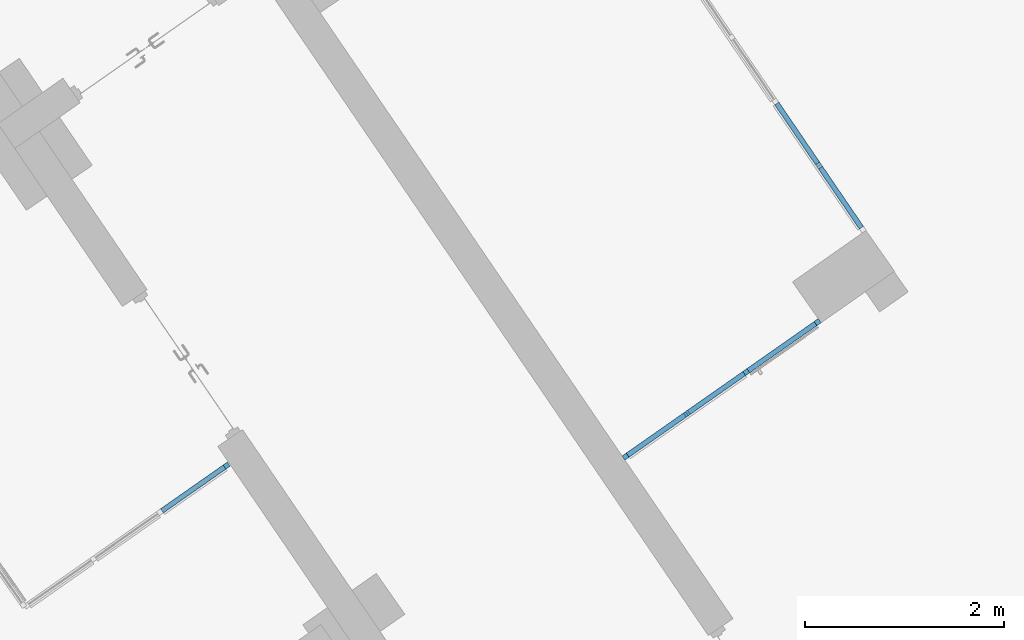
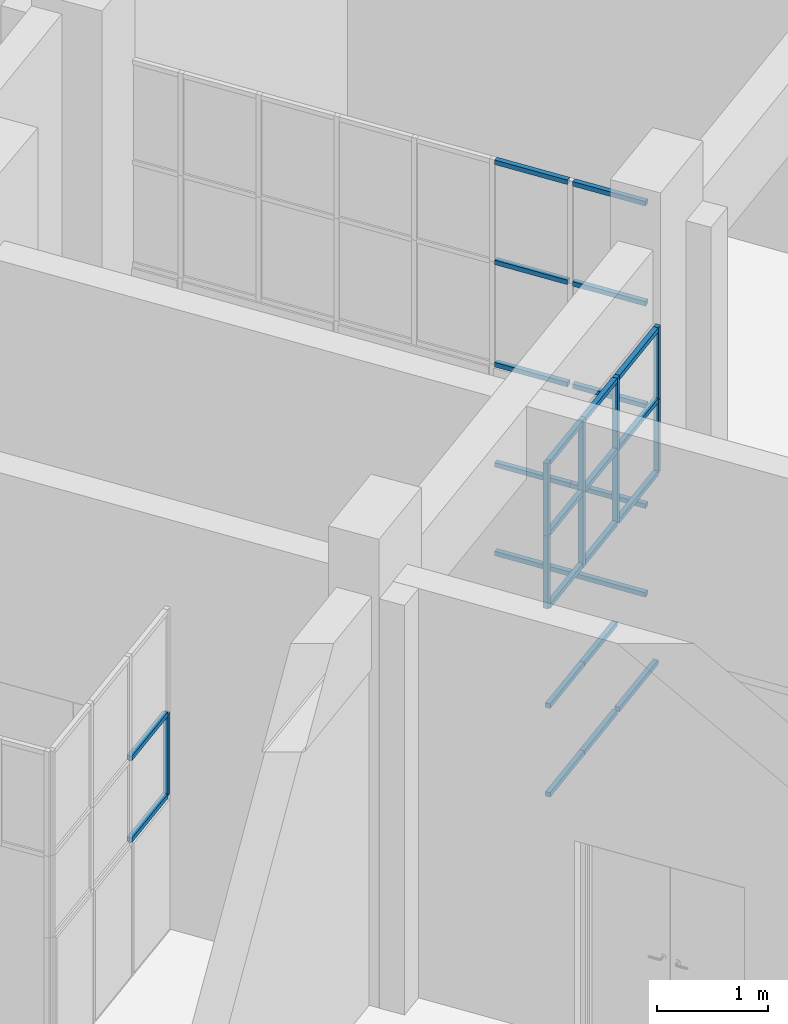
# One storey, part 40 of 157: 35 members, 3 elements without a shape of their own.
"""IFC2X3 building model written with IfcOpenShell, lengths in millimetres."""

from ifc_helpers import new_model, entity, si_unit, converted_unit, derived_unit, direction, frame, origin, origin_2d_with_axis, place, context, subcontext, project, spatial, rectangle, extrude, source, transform, mapped, material, type_object, type_shapes, element, aggregate, save


model = new_model("IFC2X3")

# Units and contexts
model_context = context("Model", 3, precision=0.01, world=origin(), true_north=direction((6.123031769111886e-17, 1.0)))
body_context = subcontext(model_context, "Body", "Model", "MODEL_VIEW")
ifc_project = project(units=[si_unit("LENGTHUNIT", "METRE", prefix="MILLI"), si_unit("AREAUNIT", "SQUARE_METRE"), si_unit("VOLUMEUNIT", "CUBIC_METRE"), converted_unit("PLANEANGLEUNIT", "DEGREE", entity("IfcRatioMeasure", 0.017453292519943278), si_unit("PLANEANGLEUNIT", "RADIAN"), dimensions=[0, 0, 0, 0, 0, 0, 0]), si_unit("MASSUNIT", "GRAM", prefix="KILO"), derived_unit("MASSDENSITYUNIT", [(si_unit("MASSUNIT", "GRAM", prefix="KILO"), 1), (si_unit("LENGTHUNIT", "METRE"), -3)]), derived_unit("MOMENTOFINERTIAUNIT", [(si_unit("LENGTHUNIT", "METRE"), 4)]), si_unit("TIMEUNIT", "SECOND"), si_unit("FREQUENCYUNIT", "HERTZ"), si_unit("THERMODYNAMICTEMPERATUREUNIT", "DEGREE_CELSIUS"), derived_unit("THERMALTRANSMITTANCEUNIT", [(si_unit("MASSUNIT", "GRAM", prefix="KILO"), 1), (si_unit("THERMODYNAMICTEMPERATUREUNIT", "KELVIN"), -1), (si_unit("TIMEUNIT", "SECOND"), -3)]), derived_unit("THERMALCONDUCTANCEUNIT", [(si_unit("MASSUNIT", "GRAM", prefix="KILO"), 1), (si_unit("LENGTHUNIT", "METRE"), 1), (si_unit("THERMODYNAMICTEMPERATUREUNIT", "KELVIN"), -1), (si_unit("TIMEUNIT", "SECOND"), -3)]), derived_unit("VOLUMETRICFLOWRATEUNIT", [(si_unit("LENGTHUNIT", "METRE"), 3), (si_unit("TIMEUNIT", "SECOND"), -1)]), derived_unit("MASSFLOWRATEUNIT", [(si_unit("MASSUNIT", "GRAM", prefix="KILO"), 1), (si_unit("TIMEUNIT", "SECOND"), -1)]), derived_unit("ROTATIONALFREQUENCYUNIT", [(si_unit("TIMEUNIT", "SECOND"), -1)]), si_unit("ELECTRICCURRENTUNIT", "AMPERE"), si_unit("ELECTRICVOLTAGEUNIT", "VOLT"), si_unit("POWERUNIT", "WATT"), converted_unit("FORCEUNIT", "KIP", entity("IfcRatioMeasure", 2.088543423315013e-05), si_unit("FORCEUNIT", "NEWTON"), dimensions=[1, 1, -2, 0, 0, 0, 0]), si_unit("ILLUMINANCEUNIT", "LUX"), si_unit("LUMINOUSFLUXUNIT", "LUMEN"), si_unit("LUMINOUSINTENSITYUNIT", "CANDELA"), derived_unit("USERDEFINED", [(si_unit("MASSUNIT", "GRAM", prefix="KILO"), -1), (si_unit("LENGTHUNIT", "METRE"), -2), (si_unit("TIMEUNIT", "SECOND"), 3), (si_unit("LUMINOUSFLUXUNIT", "LUMEN"), 1)]), derived_unit("USERDEFINED", [(si_unit("MASSUNIT", "GRAM", prefix="KILO"), 1), (si_unit("LENGTHUNIT", "METRE"), 3), (si_unit("TIMEUNIT", "SECOND"), -3), (si_unit("ELECTRICCURRENTUNIT", "AMPERE"), -2)]), derived_unit("USERDEFINED", [(si_unit("LENGTHUNIT", "METRE"), 2), (si_unit("TIMEUNIT", "SECOND"), -2)]), derived_unit("SOUNDPOWERUNIT", [(si_unit("MASSUNIT", "GRAM", prefix="KILO"), 1), (si_unit("LENGTHUNIT", "METRE"), 2), (si_unit("TIMEUNIT", "SECOND"), -3)]), derived_unit("SOUNDPRESSUREUNIT", [(si_unit("MASSUNIT", "GRAM", prefix="KILO"), 1), (si_unit("LENGTHUNIT", "METRE"), -1), (si_unit("TIMEUNIT", "SECOND"), -2)]), derived_unit("LINEARVELOCITYUNIT", [(si_unit("LENGTHUNIT", "METRE"), 1), (si_unit("TIMEUNIT", "SECOND"), -1)]), si_unit("PRESSUREUNIT", "PASCAL"), derived_unit("USERDEFINED", [(si_unit("LENGTHUNIT", "METRE"), -2), (si_unit("MASSUNIT", "GRAM", prefix="KILO"), 1), (si_unit("TIMEUNIT", "SECOND"), -2)]), derived_unit("LINEARFORCEUNIT", [(si_unit("MASSUNIT", "GRAM", prefix="KILO"), 1), (si_unit("LENGTHUNIT", "METRE"), 1), (si_unit("TIMEUNIT", "SECOND"), -2), (si_unit("LENGTHUNIT", "METRE"), -1)]), derived_unit("PLANARFORCEUNIT", [(si_unit("MASSUNIT", "GRAM", prefix="KILO"), 1), (si_unit("LENGTHUNIT", "METRE"), 1), (si_unit("TIMEUNIT", "SECOND"), -2), (si_unit("LENGTHUNIT", "METRE"), -2)]), derived_unit("SPECIFICHEATCAPACITYUNIT", [(si_unit("LENGTHUNIT", "METRE"), 2), (si_unit("TIMEUNIT", "SECOND"), -2), (si_unit("THERMODYNAMICTEMPERATUREUNIT", "KELVIN"), -1)]), derived_unit("VAPORPERMEABILITYUNIT", [(si_unit("TIMEUNIT", "SECOND"), 1), (si_unit("LENGTHUNIT", "METRE"), -1)]), derived_unit("DYNAMICVISCOSITYUNIT", [(si_unit("MASSUNIT", "GRAM", prefix="KILO"), 1), (si_unit("LENGTHUNIT", "METRE"), -1), (si_unit("TIMEUNIT", "SECOND"), -1)]), derived_unit("THERMALEXPANSIONCOEFFICIENTUNIT", [(si_unit("THERMODYNAMICTEMPERATUREUNIT", "KELVIN"), -1)])], contexts=[model_context])

# Site, building, storey
site_placement = place(None, frame((0.0, 0.0, 0.0), z_axis=(0.0, 0.0, 1.0), x_axis=(0.8191520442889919, 0.5735764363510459, 0.0)))
site = spatial("IfcSite", under=ifc_project, at=site_placement, Name="Default", CompositionType="ELEMENT")
building_placement = place(site_placement, origin())
building = spatial("IfcBuilding", under=site, at=building_placement, CompositionType="ELEMENT")
storey_placement = place(building_placement, origin())
storey = spatial("IfcBuildingStorey", under=building, at=storey_placement, Name="1.EG +0.00", CompositionType="ELEMENT", Elevation=-4.331468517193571e-12)

# Curtain wall, members
curtain_wall_type = type_object("IfcCurtainWallType", Name="Curtain Wall:Curtain_Wall_CJC_Int5", PredefinedType="NOTDEFINED")
curtain_wall_1_placement = place(storey_placement, origin())
curtain_wall_1 = element("IfcCurtainWall", 1, at=curtain_wall_1_placement, inside=storey, type_object=curtain_wall_type, Name="Curtain Wall:Curtain_Wall_CJC_Int5", ObjectType="Curtain Wall:Curtain_Wall_CJC_Int5")
ifc_material = material(Name="Aluminium")
member_type_1 = type_object("IfcMemberType", Name="Rectangular Mullion:5x5", PredefinedType="MULLION", material=ifc_material)
shared_shape_1 = source(origin(), body_context, "Body", "SweptSolid", [
    extrude(rectangle(XDim=49.99999999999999, YDim=50.0, at=origin_2d_with_axis()), frame((-25.0, 0.0, -701.0338390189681), z_axis=(0.0, 0.0, 1.0), x_axis=(0.0, -1.0, 0.0)), (0.0, 0.0, 1.0), 701.0338390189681),
])
type_shapes(member_type_1, [shared_shape_1])
member_1_placement = place(curtain_wall_1_placement, frame((-213186.90391156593, 157771.3589143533, 3700.0), z_axis=(-1.0, 0.0, 0.0), x_axis=(0.0, 0.0, 1.0)))
member_1 = element("IfcMember", 2, at=member_1_placement, type_object=member_type_1, material=ifc_material, Name="Rectangular Mullion:5x5", ObjectType="Rectangular Mullion:5x5", context=body_context, shape_type="MappedRepresentation", body=[
    mapped(shared_shape_1, transform((0.0, 0.0, 0.0), scale=1.0)),
])
member_type_2 = type_object("IfcMemberType", Name="Rectangular Mullion:5x5", PredefinedType="MULLION", material=ifc_material)
shared_shape_2 = source(origin(), body_context, "Body", "SweptSolid", [
    extrude(rectangle(XDim=50.000000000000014, YDim=50.0, at=origin_2d_with_axis()), frame((-25.0, 0.0, -677.0676777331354), z_axis=(0.0, 0.0, 1.0), x_axis=(0.0, -1.0, 0.0)), (0.0, 0.0, 1.0), 677.0676777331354),
])
type_shapes(member_type_2, [shared_shape_2])
member_2_placement = place(curtain_wall_1_placement, frame((-212435.8680839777, 157771.3589143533, 3700.0), z_axis=(-1.0, 0.0, 0.0), x_axis=(0.0, 0.0, 1.0)))
member_2 = element("IfcMember", 3, at=member_2_placement, type_object=member_type_2, material=ifc_material, Name="Rectangular Mullion:5x5", ObjectType="Rectangular Mullion:5x5", context=body_context, shape_type="MappedRepresentation", body=[
    mapped(shared_shape_2, transform((0.0, 0.0, 0.0), scale=1.0)),
])
member_type_3 = type_object("IfcMemberType", Name="Rectangular Mullion:5x5", PredefinedType="MULLION", material=ifc_material)
shared_shape_3 = source(origin(), body_context, "Body", "SweptSolid", [
    extrude(rectangle(XDim=50.0, YDim=50.0, at=origin_2d_with_axis()), frame((-25.0, 0.0, -825.0), z_axis=(0.0, 0.0, 1.0), x_axis=(0.0, -1.0, 0.0)), (0.0, 0.0, 1.0), 825.0),
])
type_shapes(member_type_3, [shared_shape_3])
member_3_placement = place(curtain_wall_1_placement, frame((-210883.79642910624, 157771.3589143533, 0.0), z_axis=(1.0, 0.0, 0.0), x_axis=(0.0, 0.0, -1.0)))
member_3 = element("IfcMember", 4, at=member_3_placement, type_object=member_type_3, material=ifc_material, Name="Rectangular Mullion:5x5", ObjectType="Rectangular Mullion:5x5", context=body_context, shape_type="MappedRepresentation", body=[
    mapped(shared_shape_3, transform((0.0, 0.0, 0.0), scale=1.0)),
])
member_type_4 = type_object("IfcMemberType", Name="Rectangular Mullion:5x5", PredefinedType="MULLION", material=ifc_material)
shared_shape_4 = source(origin(), body_context, "Body", "SweptSolid", [
    extrude(rectangle(XDim=50.0, YDim=50.0, at=origin_2d_with_axis()), frame((0.0, 0.0, -701.0338390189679), z_axis=(0.0, 0.0, 1.0), x_axis=(0.0, -1.0, 0.0)), (0.0, 0.0, 1.0), 701.0338390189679),
])
type_shapes(member_type_4, [shared_shape_4])
member_4_placement = place(curtain_wall_1_placement, frame((-213186.90391156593, 157771.3589143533, 2100.0), z_axis=(-1.0, 0.0, 0.0), x_axis=(0.0, 0.0, 1.0)))
member_4 = element("IfcMember", 5, at=member_4_placement, type_object=member_type_4, material=ifc_material, Name="Rectangular Mullion:5x5", ObjectType="Rectangular Mullion:5x5", context=body_context, shape_type="MappedRepresentation", body=[
    mapped(shared_shape_4, transform((0.0, 0.0, 0.0), scale=1.0)),
])
member_5_placement = place(curtain_wall_1_placement, frame((-213186.90391156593, 157771.3589143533, 2900.0), z_axis=(-1.0, 0.0, 0.0), x_axis=(0.0, 0.0, 1.0)))
member_5 = element("IfcMember", 6, at=member_5_placement, type_object=member_type_4, material=ifc_material, Name="Rectangular Mullion:5x5", ObjectType="Rectangular Mullion:5x5", context=body_context, shape_type="MappedRepresentation", body=[
    mapped(shared_shape_4, transform((0.0, 0.0, 0.0), scale=1.0)),
])
member_type_5 = type_object("IfcMemberType", Name="Rectangular Mullion:5x5", PredefinedType="MULLION", material=ifc_material)
shared_shape_5 = source(origin(), body_context, "Body", "SweptSolid", [
    extrude(rectangle(XDim=50.0, YDim=50.0, at=origin_2d_with_axis()), frame((0.0, 0.0, -677.0676777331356), z_axis=(0.0, 0.0, 1.0), x_axis=(0.0, -1.0, 0.0)), (0.0, 0.0, 1.0), 677.067677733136),
])
type_shapes(member_type_5, [shared_shape_5])
member_6_placement = place(curtain_wall_1_placement, frame((-212435.8680839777, 157771.3589143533, 2100.0), z_axis=(-1.0, 0.0, 0.0), x_axis=(0.0, 0.0, 1.0)))
member_6 = element("IfcMember", 7, at=member_6_placement, type_object=member_type_5, material=ifc_material, Name="Rectangular Mullion:5x5", ObjectType="Rectangular Mullion:5x5", context=body_context, shape_type="MappedRepresentation", body=[
    mapped(shared_shape_5, transform((0.0, 0.0, 0.0), scale=1.0)),
])
member_7_placement = place(curtain_wall_1_placement, frame((-212435.8680839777, 157771.3589143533, 2900.0), z_axis=(-1.0, 0.0, 0.0), x_axis=(0.0, 0.0, 1.0)))
member_7 = element("IfcMember", 8, at=member_7_placement, type_object=member_type_5, material=ifc_material, Name="Rectangular Mullion:5x5", ObjectType="Rectangular Mullion:5x5", context=body_context, shape_type="MappedRepresentation", body=[
    mapped(shared_shape_5, transform((0.0, 0.0, 0.0), scale=1.0)),
])
member_type_6 = type_object("IfcMemberType", Name="Rectangular Mullion:5x5", PredefinedType="MULLION", material=ifc_material)
shared_shape_6 = source(origin(), body_context, "Body", "SweptSolid", [
    extrude(rectangle(XDim=50.0, YDim=50.0, at=origin_2d_with_axis()), frame((0.0, 0.0, -825.0), z_axis=(0.0, 0.0, 1.0), x_axis=(0.0, -1.0, 0.0)), (0.0, 0.0, 1.0), 825.0),
])
type_shapes(member_type_6, [shared_shape_6])
member_8_placement = place(curtain_wall_1_placement, frame((-211708.79642910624, 157771.3589143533, 2100.0), z_axis=(-1.0, 0.0, 0.0), x_axis=(0.0, 0.0, 1.0)))
member_8 = element("IfcMember", 9, at=member_8_placement, type_object=member_type_6, material=ifc_material, Name="Rectangular Mullion:5x5", ObjectType="Rectangular Mullion:5x5", context=body_context, shape_type="MappedRepresentation", body=[
    mapped(shared_shape_6, transform((0.0, 0.0, 0.0), scale=1.0)),
])
member_9_placement = place(curtain_wall_1_placement, frame((-211708.79642910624, 157771.3589143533, 2900.0), z_axis=(-1.0, 0.0, 0.0), x_axis=(0.0, 0.0, 1.0)))
member_9 = element("IfcMember", 10, at=member_9_placement, type_object=member_type_6, material=ifc_material, Name="Rectangular Mullion:5x5", ObjectType="Rectangular Mullion:5x5", context=body_context, shape_type="MappedRepresentation", body=[
    mapped(shared_shape_6, transform((0.0, 0.0, 0.0), scale=1.0)),
])
member_type_7 = type_object("IfcMemberType", Name="Rectangular Mullion:5x5", PredefinedType="MULLION", material=ifc_material)
shared_shape_7 = source(origin(), body_context, "Body", "SweptSolid", [
    extrude(rectangle(XDim=50.0, YDim=50.0, at=origin_2d_with_axis()), frame((-25.0, 0.0, -825.0), z_axis=(0.0, 0.0, 1.0), x_axis=(0.0, -1.0, 0.0)), (0.0, 0.0, 1.0), 824.9999999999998),
])
type_shapes(member_type_7, [shared_shape_7])
member_10_placement = place(curtain_wall_1_placement, frame((-211708.79642910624, 157771.3589143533, 3700.0), z_axis=(-1.0, 0.0, 0.0), x_axis=(0.0, 0.0, 1.0)))
member_10 = element("IfcMember", 11, at=member_10_placement, type_object=member_type_7, material=ifc_material, Name="Rectangular Mullion:5x5", ObjectType="Rectangular Mullion:5x5", context=body_context, shape_type="MappedRepresentation", body=[
    mapped(shared_shape_7, transform((0.0, 0.0, 0.0), scale=1.0)),
])

curtain_wall_2_placement = place(storey_placement, origin())
curtain_wall_2 = element("IfcCurtainWall", 12, at=curtain_wall_2_placement, inside=storey, type_object=curtain_wall_type, Name="Curtain Wall:Curtain_Wall_CJC_Int5", ObjectType="Curtain Wall:Curtain_Wall_CJC_Int5")
member_type_8 = type_object("IfcMemberType", Name="Rectangular Mullion:5x5", PredefinedType="MULLION", material=ifc_material)
shared_shape_8 = source(origin(), body_context, "Body", "SweptSolid", [
    extrude(rectangle(XDim=50.0, YDim=50.0, at=origin_2d_with_axis()), frame((-25.0, 0.0, -728.6339668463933), z_axis=(0.0, 0.0, 1.0), x_axis=(0.0, -1.0, 0.0)), (0.0, 0.0, 1.0), 728.6339668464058),
])
type_shapes(member_type_8, [shared_shape_8])
member_11_placement = place(curtain_wall_2_placement, frame((-209945.72636363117, 159024.93091162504, 4350.0), z_axis=(0.012616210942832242, 0.9999204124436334, 0.0), x_axis=(0.0, 0.0, 1.0)))
member_11 = element("IfcMember", 13, at=member_11_placement, type_object=member_type_8, material=ifc_material, Name="Rectangular Mullion:5x5", ObjectType="Rectangular Mullion:5x5", context=body_context, shape_type="MappedRepresentation", body=[
    mapped(shared_shape_8, transform((0.0, 0.0, 0.0), scale=1.0)),
])
member_12_placement = place(curtain_wall_2_placement, frame((-209935.9029532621, 159803.502908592, 4350.0), z_axis=(0.012616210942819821, 0.9999204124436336, 0.0), x_axis=(0.0, 0.0, 1.0)))
member_12 = element("IfcMember", 14, at=member_12_placement, type_object=member_type_8, material=ifc_material, Name="Rectangular Mullion:5x5", ObjectType="Rectangular Mullion:5x5", context=body_context, shape_type="MappedRepresentation", body=[
    mapped(shared_shape_8, transform((0.0, 0.0, 0.0), scale=1.0)),
])
member_type_9 = type_object("IfcMemberType", Name="Rectangular Mullion:5x5", PredefinedType="MULLION", material=ifc_material)
shared_shape_9 = source(origin(), body_context, "Body", "SweptSolid", [
    extrude(rectangle(XDim=50.0, YDim=50.0, at=origin_2d_with_axis()), frame((-25.0, 0.0, -753.6339668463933), z_axis=(0.0, 0.0, 1.0), x_axis=(0.0, -1.0, 0.0)), (0.0, 0.0, 1.0), 753.6339668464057),
])
type_shapes(member_type_9, [shared_shape_9])
member_13_placement = place(curtain_wall_2_placement, frame((-209954.918963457, 158296.35493497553, 0.0), z_axis=(-0.012616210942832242, -0.9999204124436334, 0.0), x_axis=(0.0, 0.0, -1.0)))
member_13 = element("IfcMember", 15, at=member_13_placement, type_object=member_type_9, material=ifc_material, Name="Rectangular Mullion:5x5", ObjectType="Rectangular Mullion:5x5", context=body_context, shape_type="MappedRepresentation", body=[
    mapped(shared_shape_9, transform((0.0, 0.0, 0.0), scale=1.0)),
])
member_type_10 = type_object("IfcMemberType", Name="Rectangular Mullion:5x5", PredefinedType="MULLION", material=ifc_material)
shared_shape_10 = source(origin(), body_context, "Body", "SweptSolid", [
    extrude(rectangle(XDim=50.0, YDim=50.0, at=origin_2d_with_axis()), frame((-25.0, 0.0, -753.6339665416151), z_axis=(0.0, 0.0, 1.0), x_axis=(0.0, -1.0, 0.0)), (0.0, 0.0, 1.0), 753.6339665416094),
])
type_shapes(member_type_10, [shared_shape_10])
member_14_placement = place(curtain_wall_2_placement, frame((-209945.41095835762, 159049.92892193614, 0.0), z_axis=(-0.012616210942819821, -0.9999204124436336, 0.0), x_axis=(0.0, 0.0, -1.0)))
member_14 = element("IfcMember", 16, at=member_14_placement, type_object=member_type_10, material=ifc_material, Name="Rectangular Mullion:5x5", ObjectType="Rectangular Mullion:5x5", context=body_context, shape_type="MappedRepresentation", body=[
    mapped(shared_shape_10, transform((0.0, 0.0, 0.0), scale=1.0)),
])
member_type_11 = type_object("IfcMemberType", Name="Rectangular Mullion:5x5", PredefinedType="MULLION", material=ifc_material)
shared_shape_11 = source(origin(), body_context, "Body", "SweptSolid", [
    extrude(rectangle(XDim=50.0, YDim=50.0, at=origin_2d_with_axis()), frame((0.0, 0.0, -753.6339668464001), z_axis=(0.0, 0.0, 1.0), x_axis=(0.0, -1.0, 0.0)), (0.0, 0.0, 1.0), 753.6339668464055),
])
type_shapes(member_type_11, [shared_shape_11])
member_15_placement = place(curtain_wall_2_placement, frame((-209945.41095835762, 159049.9289219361, 1000.0), z_axis=(0.012616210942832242, 0.9999204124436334, 0.0), x_axis=(0.0, 0.0, 1.0)))
member_15 = element("IfcMember", 17, at=member_15_placement, type_object=member_type_11, material=ifc_material, Name="Rectangular Mullion:5x5", ObjectType="Rectangular Mullion:5x5", context=body_context, shape_type="MappedRepresentation", body=[
    mapped(shared_shape_11, transform((0.0, 0.0, 0.0), scale=1.0)),
])
member_type_12 = type_object("IfcMemberType", Name="Rectangular Mullion:5x5", PredefinedType="MULLION", material=ifc_material)
shared_shape_12 = source(origin(), body_context, "Body", "SweptSolid", [
    extrude(rectangle(XDim=50.0, YDim=50.0, at=origin_2d_with_axis()), frame((0.0, 0.0, -753.6339665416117), z_axis=(0.0, 0.0, 1.0), x_axis=(0.0, -1.0, 0.0)), (0.0, 0.0, 1.0), 753.6339665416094),
])
type_shapes(member_type_12, [shared_shape_12])
member_16_placement = place(curtain_wall_2_placement, frame((-209935.9029532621, 159803.502908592, 1000.0), z_axis=(0.012616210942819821, 0.9999204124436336, 0.0), x_axis=(0.0, 0.0, 1.0)))
member_16 = element("IfcMember", 18, at=member_16_placement, type_object=member_type_12, material=ifc_material, Name="Rectangular Mullion:5x5", ObjectType="Rectangular Mullion:5x5", context=body_context, shape_type="MappedRepresentation", body=[
    mapped(shared_shape_12, transform((0.0, 0.0, 0.0), scale=1.0)),
])
member_type_13 = type_object("IfcMemberType", Name="Rectangular Mullion:5x5", PredefinedType="MULLION", material=ifc_material)
shared_shape_13 = source(origin(), body_context, "Body", "SweptSolid", [
    extrude(rectangle(XDim=50.0, YDim=50.0, at=origin_2d_with_axis()), frame((0.0, 0.0, -728.6339668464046), z_axis=(0.0, 0.0, 1.0), x_axis=(0.0, -1.0, 0.0)), (0.0, 0.0, 1.0), 728.6339668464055),
])
type_shapes(member_type_13, [shared_shape_13])
member_17_placement = place(curtain_wall_2_placement, frame((-209945.72636363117, 159024.93091162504, 2100.0), z_axis=(0.012616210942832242, 0.9999204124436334, 0.0), x_axis=(0.0, 0.0, 1.0)))
member_17 = element("IfcMember", 19, at=member_17_placement, type_object=member_type_13, material=ifc_material, Name="Rectangular Mullion:5x5", ObjectType="Rectangular Mullion:5x5", context=body_context, shape_type="MappedRepresentation", body=[
    mapped(shared_shape_13, transform((0.0, 0.0, 0.0), scale=1.0)),
])
member_18_placement = place(curtain_wall_2_placement, frame((-209935.9029532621, 159803.502908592, 2100.0), z_axis=(0.012616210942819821, 0.9999204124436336, 0.0), x_axis=(0.0, 0.0, 1.0)))
member_18 = element("IfcMember", 20, at=member_18_placement, type_object=member_type_13, material=ifc_material, Name="Rectangular Mullion:5x5", ObjectType="Rectangular Mullion:5x5", context=body_context, shape_type="MappedRepresentation", body=[
    mapped(shared_shape_13, transform((0.0, 0.0, 0.0), scale=1.0)),
])
member_19_placement = place(curtain_wall_2_placement, frame((-209945.72636363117, 159024.93091162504, 3225.0), z_axis=(0.012616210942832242, 0.9999204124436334, 0.0), x_axis=(0.0, 0.0, 1.0)))
member_19 = element("IfcMember", 21, at=member_19_placement, type_object=member_type_13, material=ifc_material, Name="Rectangular Mullion:5x5", ObjectType="Rectangular Mullion:5x5", context=body_context, shape_type="MappedRepresentation", body=[
    mapped(shared_shape_13, transform((0.0, 0.0, 0.0), scale=1.0)),
])
member_20_placement = place(curtain_wall_2_placement, frame((-209935.9029532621, 159803.502908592, 3225.0), z_axis=(0.012616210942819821, 0.9999204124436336, 0.0), x_axis=(0.0, 0.0, 1.0)))
member_20 = element("IfcMember", 22, at=member_20_placement, type_object=member_type_13, material=ifc_material, Name="Rectangular Mullion:5x5", ObjectType="Rectangular Mullion:5x5", context=body_context, shape_type="MappedRepresentation", body=[
    mapped(shared_shape_13, transform((0.0, 0.0, 0.0), scale=1.0)),
])
aggregate(curtain_wall_2, [member_13, member_11, member_12, member_14, member_15, member_16, member_17, member_18, member_19, member_20])

# Member
member_type_14 = type_object("IfcMemberType", Name="Rectangular Mullion:5x5", PredefinedType="MULLION", material=ifc_material)
shared_shape_14 = source(origin(), body_context, "Body", "SweptSolid", [
    extrude(rectangle(XDim=50.0, YDim=50.0, at=origin_2d_with_axis()), frame((-25.0, 0.0, -800.0), z_axis=(0.0, 0.0, 1.0), x_axis=(0.0, -1.0, 0.0)), (0.0, 0.0, 1.0), 800.0),
])
type_shapes(member_type_14, [shared_shape_14])
member_21_placement = place(curtain_wall_1_placement, frame((-210833.79642910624, 157771.3589143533, 3700.0)))
member_21 = element("IfcMember", 23, at=member_21_placement, type_object=member_type_14, material=ifc_material, Name="Rectangular Mullion:5x5", ObjectType="Rectangular Mullion:5x5", context=body_context, shape_type="MappedRepresentation", body=[
    mapped(shared_shape_14, transform((0.0, 0.0, 0.0), scale=1.0)),
])

member_type_15 = type_object("IfcMemberType", Name="Rectangular Mullion:5x5", PredefinedType="MULLION", material=ifc_material)
shared_shape_15 = source(origin(), body_context, "Body", "SweptSolid", [
    extrude(rectangle(XDim=50.000000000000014, YDim=50.0, at=origin_2d_with_axis()), frame((-25.0, 0.0, -702.0716548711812), z_axis=(0.0, 0.0, 1.0), x_axis=(0.0, -1.0, 0.0)), (0.0, 0.0, 1.0), 702.0716548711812),
])
type_shapes(member_type_15, [shared_shape_15])
member_22_placement = place(curtain_wall_1_placement, frame((-211758.79642910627, 157771.3589143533, 0.0), z_axis=(1.0, 0.0, 0.0), x_axis=(0.0, 0.0, -1.0)))
member_22 = element("IfcMember", 24, at=member_22_placement, type_object=member_type_15, material=ifc_material, Name="Rectangular Mullion:5x5", ObjectType="Rectangular Mullion:5x5", context=body_context, shape_type="MappedRepresentation", body=[
    mapped(shared_shape_15, transform((0.0, 0.0, 0.0), scale=1.0)),
])

member_type_16 = type_object("IfcMemberType", Name="Rectangular Mullion:5x5", PredefinedType="MULLION", material=ifc_material)
shared_shape_16 = source(origin(), body_context, "Body", "SweptSolid", [
    extrude(rectangle(XDim=50.000000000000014, YDim=50.0, at=origin_2d_with_axis()), frame((-25.0, 0.0, -726.0358275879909), z_axis=(0.0, 0.0, 1.0), x_axis=(0.0, -1.0, 0.0)), (0.0, 0.0, 1.0), 726.0358275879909),
])
type_shapes(member_type_16, [shared_shape_16])
member_23_placement = place(curtain_wall_1_placement, frame((-212460.8680839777, 157771.3589143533, 0.0), z_axis=(1.0, 0.0, 0.0), x_axis=(0.0, 0.0, -1.0)))
member_23 = element("IfcMember", 25, at=member_23_placement, type_object=member_type_16, material=ifc_material, Name="Rectangular Mullion:5x5", ObjectType="Rectangular Mullion:5x5", context=body_context, shape_type="MappedRepresentation", body=[
    mapped(shared_shape_16, transform((0.0, 0.0, 0.0), scale=1.0)),
])

member_type_17 = type_object("IfcMemberType", Name="Rectangular Mullion:5x5", PredefinedType="MULLION", material=ifc_material)
shared_shape_17 = source(origin(), body_context, "Body", "SweptSolid", [
    extrude(rectangle(XDim=50.000000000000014, YDim=50.0, at=origin_2d_with_axis()), frame((-25.0, 0.0, -800.0), z_axis=(0.0, 0.0, 1.0), x_axis=(0.0, -1.0, 0.0)), (0.0, 0.0, 1.0), 800.0000000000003),
])
type_shapes(member_type_17, [shared_shape_17])
member_24_placement = place(curtain_wall_1_placement, frame((-213236.90391156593, 157771.3589143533, 2100.0), z_axis=(0.0, 0.0, -1.0), x_axis=(-1.0, 0.0, 0.0)))
member_24 = element("IfcMember", 26, at=member_24_placement, type_object=member_type_17, material=ifc_material, Name="Rectangular Mullion:5x5", ObjectType="Rectangular Mullion:5x5", context=body_context, shape_type="MappedRepresentation", body=[
    mapped(shared_shape_17, transform((0.0, 0.0, 0.0), scale=1.0)),
])

member_type_18 = type_object("IfcMemberType", Name="Rectangular Mullion:5x5", PredefinedType="MULLION", material=ifc_material)
shared_shape_18 = source(origin(), body_context, "Body", "SweptSolid", [
    extrude(rectangle(XDim=50.0, YDim=50.0, at=origin_2d_with_axis()), frame((-25.0, 0.0, -800.0), z_axis=(0.0, 0.0, 1.0), x_axis=(0.0, -1.0, 0.0)), (0.0, 0.0, 1.0), 800.0),
])
type_shapes(member_type_18, [shared_shape_18])
member_25_placement = place(curtain_wall_1_placement, frame((-213236.90391156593, 157771.3589143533, 2900.0), z_axis=(0.0, 0.0, -1.0), x_axis=(-1.0, 0.0, 0.0)))
member_25 = element("IfcMember", 27, at=member_25_placement, type_object=member_type_18, material=ifc_material, Name="Rectangular Mullion:5x5", ObjectType="Rectangular Mullion:5x5", context=body_context, shape_type="MappedRepresentation", body=[
    mapped(shared_shape_18, transform((0.0, 0.0, 0.0), scale=1.0)),
])

member_type_19 = type_object("IfcMemberType", Name="Rectangular Mullion:5x5", PredefinedType="MULLION", material=ifc_material)
shared_shape_19 = source(origin(), body_context, "Body", "SweptSolid", [
    extrude(rectangle(XDim=50.000000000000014, YDim=50.0, at=origin_2d_with_axis()), frame((-25.0, 0.0, -800.0), z_axis=(0.0, 0.0, 1.0), x_axis=(0.0, -1.0, 0.0)), (0.0, 0.0, 1.0), 800.0),
])
type_shapes(member_type_19, [shared_shape_19])
member_26_placement = place(curtain_wall_1_placement, frame((-210833.79642910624, 157771.3589143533, 2900.0)))
member_26 = element("IfcMember", 28, at=member_26_placement, type_object=member_type_19, material=ifc_material, Name="Rectangular Mullion:5x5", ObjectType="Rectangular Mullion:5x5", context=body_context, shape_type="MappedRepresentation", body=[
    mapped(shared_shape_19, transform((0.0, 0.0, 0.0), scale=1.0)),
])

member_type_20 = type_object("IfcMemberType", Name="Rectangular Mullion:5x5", PredefinedType="MULLION", material=ifc_material)
shared_shape_20 = source(origin(), body_context, "Body", "SweptSolid", [
    extrude(rectangle(XDim=50.0, YDim=50.0, at=origin_2d_with_axis()), frame((0.0, 0.0, -702.0716548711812), z_axis=(0.0, 0.0, 1.0), x_axis=(0.0, -1.0, 0.0)), (0.0, 0.0, 1.0), 702.0716548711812),
])
type_shapes(member_type_20, [shared_shape_20])
member_27_placement = place(curtain_wall_1_placement, frame((-212460.8680839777, 157771.3589143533, 1000.0), z_axis=(-1.0, 0.0, 0.0), x_axis=(0.0, 0.0, 1.0)))
member_27 = element("IfcMember", 29, at=member_27_placement, type_object=member_type_20, material=ifc_material, Name="Rectangular Mullion:5x5", ObjectType="Rectangular Mullion:5x5", context=body_context, shape_type="MappedRepresentation", body=[
    mapped(shared_shape_20, transform((0.0, 0.0, 0.0), scale=1.0)),
])

member_type_21 = type_object("IfcMemberType", Name="Rectangular Mullion:5x5", PredefinedType="MULLION", material=ifc_material)
shared_shape_21 = source(origin(), body_context, "Body", "SweptSolid", [
    extrude(rectangle(XDim=50.0, YDim=50.0, at=origin_2d_with_axis()), frame((0.0, 0.0, -726.0358275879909), z_axis=(0.0, 0.0, 1.0), x_axis=(0.0, -1.0, 0.0)), (0.0, 0.0, 1.0), 726.0358275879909),
])
type_shapes(member_type_21, [shared_shape_21])
member_28_placement = place(curtain_wall_1_placement, frame((-213186.90391156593, 157771.3589143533, 1000.0), z_axis=(-1.0, 0.0, 0.0), x_axis=(0.0, 0.0, 1.0)))
member_28 = element("IfcMember", 30, at=member_28_placement, type_object=member_type_21, material=ifc_material, Name="Rectangular Mullion:5x5", ObjectType="Rectangular Mullion:5x5", context=body_context, shape_type="MappedRepresentation", body=[
    mapped(shared_shape_21, transform((0.0, 0.0, 0.0), scale=1.0)),
])

member_type_22 = type_object("IfcMemberType", Name="Rectangular Mullion:5x5", PredefinedType="MULLION", material=ifc_material)
shared_shape_22 = source(origin(), body_context, "Body", "SweptSolid", [
    extrude(rectangle(XDim=50.0, YDim=50.0, at=origin_2d_with_axis()), frame((0.0, 0.0, -800.0), z_axis=(0.0, 0.0, 1.0), x_axis=(0.0, -1.0, 0.0)), (0.0, 0.0, 1.0), 800.0000000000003),
])
type_shapes(member_type_22, [shared_shape_22])
member_29_placement = place(curtain_wall_1_placement, frame((-211733.79642910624, 157771.3589143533, 2100.0), z_axis=(0.0, 0.0, -1.0), x_axis=(-1.0, 0.0, 0.0)))
member_29 = element("IfcMember", 31, at=member_29_placement, type_object=member_type_22, material=ifc_material, Name="Rectangular Mullion:5x5", ObjectType="Rectangular Mullion:5x5", context=body_context, shape_type="MappedRepresentation", body=[
    mapped(shared_shape_22, transform((0.0, 0.0, 0.0), scale=1.0)),
])

member_type_23 = type_object("IfcMemberType", Name="Rectangular Mullion:5x5", PredefinedType="MULLION", material=ifc_material)
shared_shape_23 = source(origin(), body_context, "Body", "SweptSolid", [
    extrude(rectangle(XDim=50.0, YDim=50.0, at=origin_2d_with_axis()), frame((0.0, 0.0, -825.0), z_axis=(0.0, 0.0, 1.0), x_axis=(0.0, -1.0, 0.0)), (0.0, 0.0, 1.0), 825.0000000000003),
])
type_shapes(member_type_23, [shared_shape_23])
member_30_placement = place(curtain_wall_1_placement, frame((-212460.8680839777, 157771.3589143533, 2075.0), z_axis=(0.0, 0.0, -1.0), x_axis=(-1.0, 0.0, 0.0)))
member_30 = element("IfcMember", 32, at=member_30_placement, type_object=member_type_23, material=ifc_material, Name="Rectangular Mullion:5x5", ObjectType="Rectangular Mullion:5x5", context=body_context, shape_type="MappedRepresentation", body=[
    mapped(shared_shape_23, transform((0.0, 0.0, 0.0), scale=1.0)),
])

member_type_24 = type_object("IfcMemberType", Name="Rectangular Mullion:5x5", PredefinedType="MULLION", material=ifc_material)
shared_shape_24 = source(origin(), body_context, "Body", "SweptSolid", [
    extrude(rectangle(XDim=50.0, YDim=50.0, at=origin_2d_with_axis()), frame((0.0, 0.0, -800.0), z_axis=(0.0, 0.0, 1.0), x_axis=(0.0, -1.0, 0.0)), (0.0, 0.0, 1.0), 800.0),
])
type_shapes(member_type_24, [shared_shape_24])
member_31_placement = place(curtain_wall_1_placement, frame((-211733.79642910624, 157771.3589143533, 2900.0), z_axis=(0.0, 0.0, -1.0), x_axis=(-1.0, 0.0, 0.0)))
member_31 = element("IfcMember", 33, at=member_31_placement, type_object=member_type_24, material=ifc_material, Name="Rectangular Mullion:5x5", ObjectType="Rectangular Mullion:5x5", context=body_context, shape_type="MappedRepresentation", body=[
    mapped(shared_shape_24, transform((0.0, 0.0, 0.0), scale=1.0)),
])

member_32_placement = place(curtain_wall_1_placement, frame((-212460.8680839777, 157771.3589143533, 2900.0), z_axis=(0.0, 0.0, -1.0), x_axis=(-1.0, 0.0, 0.0)))
member_32 = element("IfcMember", 34, at=member_32_placement, type_object=member_type_24, material=ifc_material, Name="Rectangular Mullion:5x5", ObjectType="Rectangular Mullion:5x5", context=body_context, shape_type="MappedRepresentation", body=[
    mapped(shared_shape_24, transform((0.0, 0.0, 0.0), scale=1.0)),
])

aggregate(curtain_wall_1, [member_1, member_3, member_21, member_10, member_2, member_22, member_23, member_24, member_25, member_26, member_27, member_28, member_8, member_6, member_4, member_9, member_7, member_5, member_29, member_30, member_31, member_32])

# Curtain wall, members
curtain_wall_3_placement = place(storey_placement, origin())
curtain_wall_3 = element("IfcCurtainWall", 35, at=curtain_wall_3_placement, inside=storey, type_object=curtain_wall_type, Name="Curtain Wall:Curtain_Wall_CJC_Int5", ObjectType="Curtain Wall:Curtain_Wall_CJC_Int5")
member_type_25 = type_object("IfcMemberType", Name="Rectangular Mullion:5x5", PredefinedType="MULLION", material=ifc_material)
shared_shape_25 = source(origin(), body_context, "Body", "SweptSolid", [
    extrude(rectangle(XDim=50.0, YDim=50.0, at=origin_2d_with_axis()), frame((0.0, 0.0, -766.6666667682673), z_axis=(0.0, 0.0, 1.0), x_axis=(0.0, -1.0, 0.0)), (0.0, 0.0, 1.0), 766.666666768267),
])
type_shapes(member_type_25, [shared_shape_25])
member_33_placement = place(curtain_wall_3_placement, frame((-217335.58502671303, 159994.0786543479, 1500.0), z_axis=(-1.0, 0.0, 0.0), x_axis=(0.0, 0.0, 1.0)))
member_33 = element("IfcMember", 36, at=member_33_placement, type_object=member_type_25, material=ifc_material, Name="Rectangular Mullion:5x5", ObjectType="Rectangular Mullion:5x5", context=body_context, shape_type="MappedRepresentation", body=[
    mapped(shared_shape_25, transform((0.0, 0.0, 0.0), scale=1.0)),
])
member_34_placement = place(curtain_wall_3_placement, frame((-217335.58502671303, 159994.0786543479, 2400.0), z_axis=(-1.0, 0.0, 0.0), x_axis=(0.0, 0.0, 1.0)))
member_34 = element("IfcMember", 37, at=member_34_placement, type_object=member_type_25, material=ifc_material, Name="Rectangular Mullion:5x5", ObjectType="Rectangular Mullion:5x5", context=body_context, shape_type="MappedRepresentation", body=[
    mapped(shared_shape_25, transform((0.0, 0.0, 0.0), scale=1.0)),
])
member_type_26 = type_object("IfcMemberType", Name="Rectangular Mullion:5x5", PredefinedType="MULLION", material=ifc_material)
shared_shape_26 = source(origin(), body_context, "Body", "SweptSolid", [
    extrude(rectangle(XDim=50.000000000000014, YDim=50.0, at=origin_2d_with_axis()), frame((-25.0, 0.0, -900.0), z_axis=(0.0, 0.0, 1.0), x_axis=(0.0, -1.0, 0.0)), (0.0, 0.0, 1.0), 899.9999999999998),
])
type_shapes(member_type_26, [shared_shape_26])
member_35_placement = place(curtain_wall_3_placement, frame((-216518.91835994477, 159994.0786543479, 2400.0)))
member_35 = element("IfcMember", 38, at=member_35_placement, type_object=member_type_26, material=ifc_material, Name="Rectangular Mullion:5x5", ObjectType="Rectangular Mullion:5x5", context=body_context, shape_type="MappedRepresentation", body=[
    mapped(shared_shape_26, transform((0.0, 0.0, 0.0), scale=1.0)),
])
aggregate(curtain_wall_3, [member_33, member_35, member_34])

save(model, "model.ifc")
